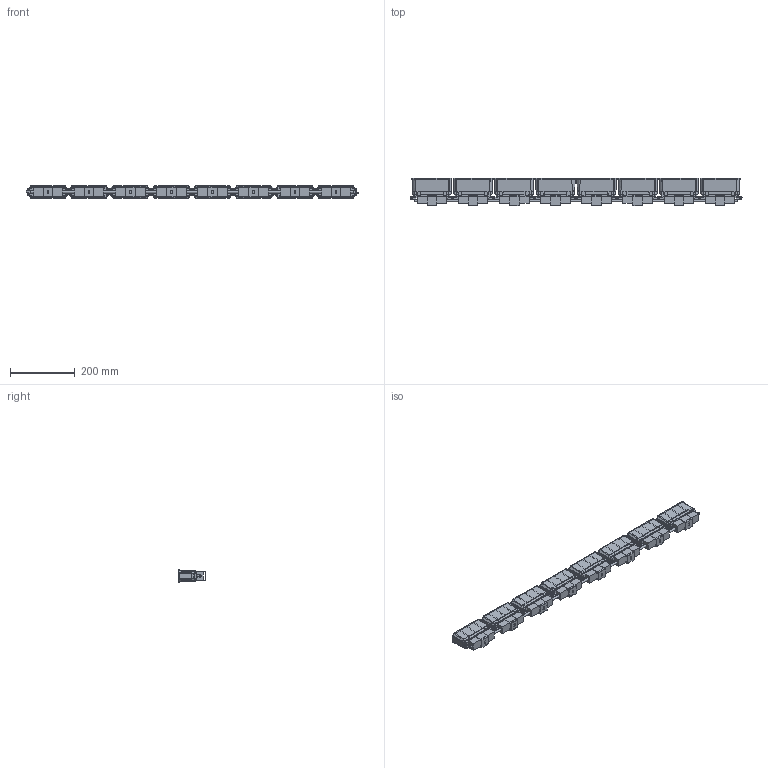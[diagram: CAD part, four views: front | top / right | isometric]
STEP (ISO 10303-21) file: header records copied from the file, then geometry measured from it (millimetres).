
FILE_DESCRIPTION (( 'STEP AP214' ), '1' );
FILE_NAME ('Linear Flex - Straight bracket with tophat.STEP', '2025-08-21T14:32:17', ( '' ), ( '' ), 'SwSTEP 2.0', 'SolidWorks 2025', '' );
FILE_SCHEMA (( 'AUTOMOTIVE_DESIGN' ));
Length unit declared in the file: millimetre
Products named in the file (7): Linear Flex - Coupling ring and nut; Linear Flex - Body; Part28^Linear Flex - Straight bracket with tophat_Wireless; Linear Flex - Tophat; Linear Flex - Straight bracket with tophat; Linear Flex - Clip - Straight_Grey; Linear Flex - Coupling screw_Recessed
Assembly tree (39 placements, depth 2):
  Linear Flex - Straight bracket with tophat
    Linear Flex - Body  x8
    Linear Flex - Coupling screw_Recessed  x7
    Linear Flex - Coupling ring and nut  x7
    Part28^Linear Flex - Straight bracket with tophat_Wireless
    Linear Flex - Clip - Straight_Grey  x8
    Linear Flex - Tophat  x8
Bounding box: 1028 x 83.58 x 38.18 mm (x, y, z)
Volume: 1027757.2 mm3; surface area: 495735.3 mm2
Topology: 46 solids, 46 shells, 4942 faces, 12478 edges, 7460 vertices
Faces by surface type: cylinder 1920, plane 1523, bspline 1248, sphere 160, cone 77, torus 14
Full cylindrical faces by diameter (mm): 4 x7, 5 x16, 6.5 x9, 7 x16
Entity records: 27847 total; most frequent: CARTESIAN_POINT 13169, ORIENTED_EDGE 3074, DIRECTION 2608, EDGE_CURVE 1537, AXIS2_PLACEMENT_3D 979, VERTEX_POINT 940, EDGE_LOOP 665, LINE 650
